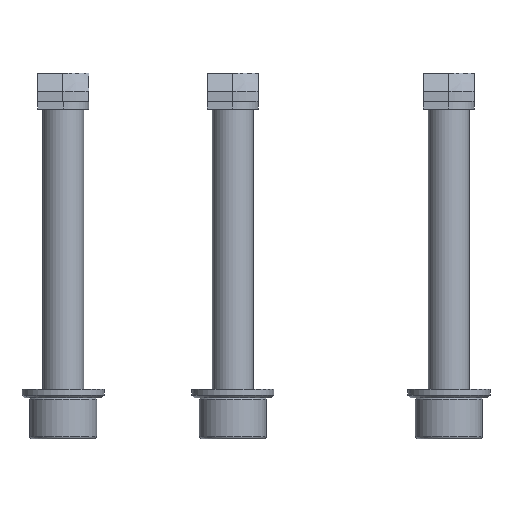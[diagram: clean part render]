
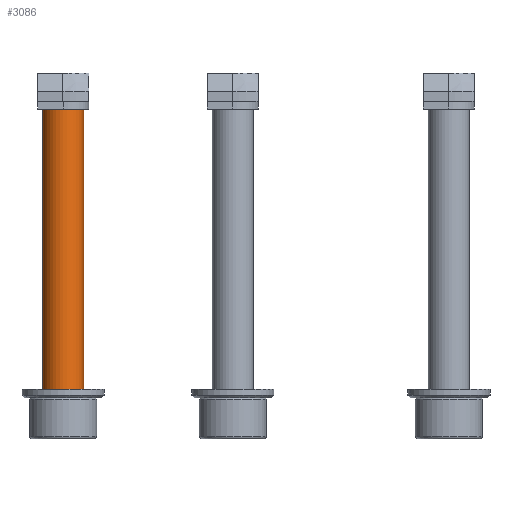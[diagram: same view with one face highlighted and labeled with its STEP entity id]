
A CAD part, front view. The second image highlights one B-rep face of the part: STEP entity #3086.
In plain terms, the highlighted cylindrical face has radius 4 mm (diameter 8 mm), a partial arc.
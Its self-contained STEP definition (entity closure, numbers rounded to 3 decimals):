
#61 = VERTEX_POINT ( 'NONE', #4027 ) ;
#110 = ORIENTED_EDGE ( 'NONE', *, *, #2878, .T. ) ;
#199 = VERTEX_POINT ( 'NONE', #1846 ) ;
#315 = DIRECTION ( 'NONE',  ( 1., 0., 0. ) ) ;
#349 = CARTESIAN_POINT ( 'NONE',  ( -79., 0., 0. ) ) ;
#373 = CARTESIAN_POINT ( 'NONE',  ( -75., 0., 0. ) ) ;
#471 = VERTEX_POINT ( 'NONE', #3835 ) ;
#496 = CIRCLE ( 'NONE', #3771, 4. ) ;
#688 = DIRECTION ( 'NONE',  ( -1., 0., 0. ) ) ;
#702 = DIRECTION ( 'NONE',  ( 0., 0., -1. ) ) ;
#786 = AXIS2_PLACEMENT_3D ( 'NONE', #4132, #2222, #315 ) ;
#824 = CARTESIAN_POINT ( 'NONE',  ( -75., 0., 60. ) ) ;
#950 = VECTOR ( 'NONE', #1096, 1000. ) ;
#975 = CIRCLE ( 'NONE', #786, 4. ) ;
#1096 = DIRECTION ( 'NONE',  ( 0., 0., -1. ) ) ;
#1352 = VECTOR ( 'NONE', #702, 1000. ) ;
#1356 = EDGE_CURVE ( 'NONE', #61, #199, #975, .T. ) ;
#1419 = CARTESIAN_POINT ( 'NONE',  ( -71., 0., 60. ) ) ;
#1461 = DIRECTION ( 'NONE',  ( 0., 0., -1. ) ) ;
#1703 = ORIENTED_EDGE ( 'NONE', *, *, #4115, .F. ) ;
#1846 = CARTESIAN_POINT ( 'NONE',  ( -71., 0., 56.1 ) ) ;
#2143 = CYLINDRICAL_SURFACE ( 'NONE', #3664, 4. ) ;
#2171 = ORIENTED_EDGE ( 'NONE', *, *, #2996, .F. ) ;
#2222 = DIRECTION ( 'NONE',  ( 0., 0., 1. ) ) ;
#2479 = EDGE_LOOP ( 'NONE', ( #2171, #3588, #110, #1703 ) ) ;
#2602 = DIRECTION ( 'NONE',  ( 0., 0., -1. ) ) ;
#2628 = CARTESIAN_POINT ( 'NONE',  ( -79., 0., 60. ) ) ;
#2878 = EDGE_CURVE ( 'NONE', #61, #4057, #3059, .T. ) ;
#2996 = EDGE_CURVE ( 'NONE', #199, #471, #3624, .T. ) ;
#3059 = LINE ( 'NONE', #2628, #1352 ) ;
#3086 = ADVANCED_FACE ( 'NONE', ( #4145 ), #2143, .T. ) ;
#3588 = ORIENTED_EDGE ( 'NONE', *, *, #1356, .F. ) ;
#3624 = LINE ( 'NONE', #1419, #950 ) ;
#3664 = AXIS2_PLACEMENT_3D ( 'NONE', #824, #1461, #3731 ) ;
#3731 = DIRECTION ( 'NONE',  ( -1., 0., 0. ) ) ;
#3771 = AXIS2_PLACEMENT_3D ( 'NONE', #373, #2602, #688 ) ;
#3835 = CARTESIAN_POINT ( 'NONE',  ( -71., 0., 0. ) ) ;
#4027 = CARTESIAN_POINT ( 'NONE',  ( -79., 0., 56.1 ) ) ;
#4057 = VERTEX_POINT ( 'NONE', #349 ) ;
#4115 = EDGE_CURVE ( 'NONE', #471, #4057, #496, .T. ) ;
#4132 = CARTESIAN_POINT ( 'NONE',  ( -75., 0., 56.1 ) ) ;
#4145 = FACE_OUTER_BOUND ( 'NONE', #2479, .T. ) ;
